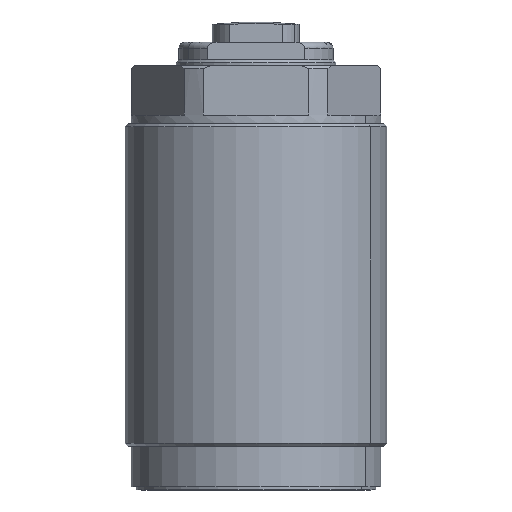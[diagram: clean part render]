
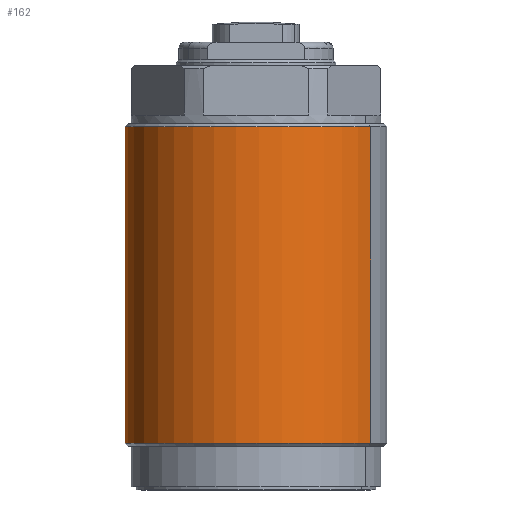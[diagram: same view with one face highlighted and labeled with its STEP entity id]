
A CAD part, left-side view. The second image highlights one B-rep face of the part: STEP entity #162.
In plain terms, the highlighted cylindrical face has radius 45 mm (diameter 90 mm), a partial arc.
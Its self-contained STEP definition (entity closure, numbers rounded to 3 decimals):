
#74=CARTESIAN_POINT('Vertex',(-21.574,-39.491,125.)) ;
#81=CARTESIAN_POINT('Vertex',(21.574,39.491,125.)) ;
#103=CARTESIAN_POINT('Axis2P3D Location',(0.,0.,125.)) ;
#120=CARTESIAN_POINT('Axis2P3D Location',(0.,0.,73.)) ;
#125=CARTESIAN_POINT('Line Origine',(-21.574,-39.491,70.5)) ;
#129=CARTESIAN_POINT('Vertex',(-21.574,-39.491,16.)) ;
#136=CARTESIAN_POINT('Vertex',(21.574,39.491,16.)) ;
#139=CARTESIAN_POINT('Line Origine',(21.574,39.491,70.5)) ;
#151=CARTESIAN_POINT('Axis2P3D Location',(0.,0.,16.)) ;
#104=DIRECTION('Axis2P3D Direction',(0.,0.,-1.)) ;
#121=DIRECTION('Axis2P3D Direction',(0.,0.,-1.)) ;
#122=DIRECTION('Axis2P3D XDirection',(0.479,0.878,0.)) ;
#126=DIRECTION('Vector Direction',(0.,0.,-1.)) ;
#140=DIRECTION('Vector Direction',(0.,0.,-1.)) ;
#152=DIRECTION('Axis2P3D Direction',(0.,0.,-1.)) ;
#105=AXIS2_PLACEMENT_3D('Circle Axis2P3D',#103,#104,$) ;
#123=AXIS2_PLACEMENT_3D('Cylinder Axis2P3D',#120,#121,#122) ;
#153=AXIS2_PLACEMENT_3D('Circle Axis2P3D',#151,#152,$) ;
#157=ORIENTED_EDGE('',*,*,#143,.T.) ;
#158=ORIENTED_EDGE('',*,*,#155,.F.) ;
#159=ORIENTED_EDGE('',*,*,#131,.F.) ;
#160=ORIENTED_EDGE('',*,*,#107,.T.) ;
#127=VECTOR('Line Direction',#126,1.) ;
#141=VECTOR('Line Direction',#140,1.) ;
#162=ADVANCED_FACE('PartBody',(#161),#124,.T.) ;
#106=CIRCLE('generated circle',#105,45.) ;
#154=CIRCLE('generated circle',#153,45.) ;
#124=CYLINDRICAL_SURFACE('generated cylinder',#123,45.) ;
#107=EDGE_CURVE('',#75,#82,#106,.T.) ;
#131=EDGE_CURVE('',#75,#130,#128,.T.) ;
#143=EDGE_CURVE('',#82,#137,#142,.T.) ;
#155=EDGE_CURVE('',#130,#137,#154,.T.) ;
#156=EDGE_LOOP('',(#157,#158,#159,#160)) ;
#161=FACE_OUTER_BOUND('',#156,.T.) ;
#128=LINE('Line',#125,#127) ;
#142=LINE('Line',#139,#141) ;
#75=VERTEX_POINT('',#74) ;
#82=VERTEX_POINT('',#81) ;
#130=VERTEX_POINT('',#129) ;
#137=VERTEX_POINT('',#136) ;
